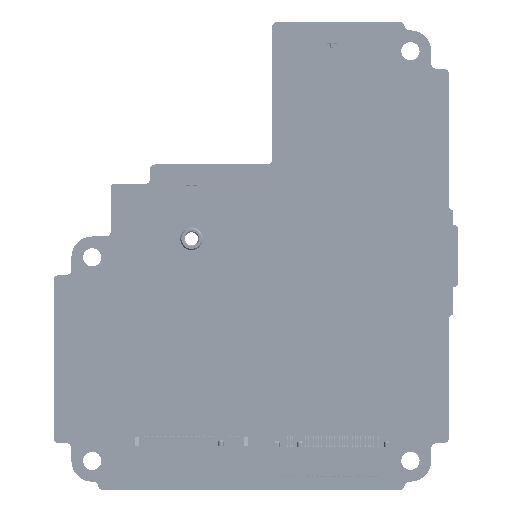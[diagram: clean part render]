
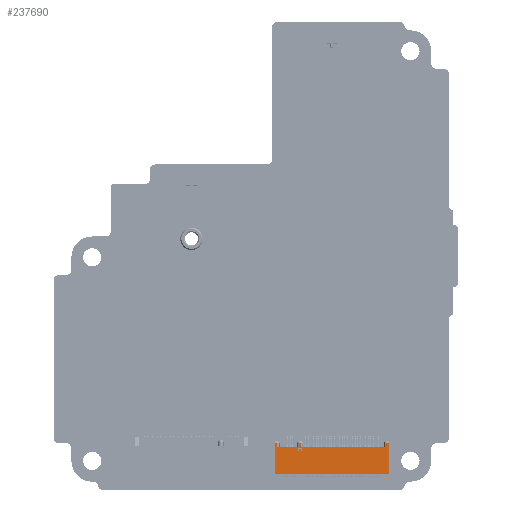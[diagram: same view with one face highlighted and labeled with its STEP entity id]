
A CAD part, front view. The second image highlights one B-rep face of the part: STEP entity #237690.
In plain terms, the highlighted planar face has unit normal (0, -1, 0) as drawn and (0, 1, 0) by its records, which use the part's own axes.
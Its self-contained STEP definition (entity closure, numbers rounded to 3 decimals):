
#86456=DIRECTION('',(0.,0.,1.));
#86457=VECTOR('',#86456,6.02);
#86458=CARTESIAN_POINT('',(0.,6.1,-6.02));
#86459=LINE('',#86458,#86457);
#86504=DIRECTION('',(1.,0.,0.));
#86505=VECTOR('',#86504,21.9);
#86506=CARTESIAN_POINT('',(0.,6.1,0.));
#86507=LINE('',#86506,#86505);
#86532=DIRECTION('',(0.,0.,1.));
#86533=VECTOR('',#86532,6.02);
#86534=CARTESIAN_POINT('',(21.9,6.1,-6.02));
#86535=LINE('',#86534,#86533);
#86536=DIRECTION('',(1.,0.,0.));
#86537=VECTOR('',#86536,4.19);
#86538=CARTESIAN_POINT('',(0.475,6.1,-5.22));
#86539=LINE('',#86538,#86537);
#86540=DIRECTION('',(1.,0.,0.));
#86541=VECTOR('',#86540,16.44);
#86542=CARTESIAN_POINT('',(4.985,6.1,-5.22));
#86543=LINE('',#86542,#86541);
#86544=DIRECTION('',(0.,0.,-1.));
#86545=VECTOR('',#86544,0.512);
#86546=CARTESIAN_POINT('',(4.563,6.1,
-4.643));
#86547=LINE('',#86546,#86545);
#86548=DIRECTION('',(-1.,0.,0.));
#86549=VECTOR('',#86548,0.081);
#86550=CARTESIAN_POINT('',(4.563,6.1,
-5.155));
#86551=LINE('',#86550,#86549);
#86552=DIRECTION('',(0.,0.,1.));
#86553=VECTOR('',#86552,0.65);
#86554=CARTESIAN_POINT('',(4.481,6.1,
-5.155));
#86555=LINE('',#86554,#86553);
#86556=DIRECTION('',(1.,0.,0.));
#86557=VECTOR('',#86556,0.122);
#86558=CARTESIAN_POINT('',(4.481,6.1,
-4.505));
#86559=LINE('',#86558,#86557);
#86560=DIRECTION('',(0.33,0.,-0.944));
#86561=VECTOR('',#86560,0.615);
#86562=CARTESIAN_POINT('',(4.603,6.1,
-4.505));
#86563=LINE('',#86562,#86561);
#86564=DIRECTION('',(0.33,0.,0.944));
#86565=VECTOR('',#86564,0.615);
#86566=CARTESIAN_POINT('',(4.806,6.1,
-5.086));
#86567=LINE('',#86566,#86565);
#86568=DIRECTION('',(1.,0.,0.));
#86569=VECTOR('',#86568,0.122);
#86570=CARTESIAN_POINT('',(5.009,6.1,
-4.505));
#86571=LINE('',#86570,#86569);
#86572=DIRECTION('',(0.,0.,-1.));
#86573=VECTOR('',#86572,0.65);
#86574=CARTESIAN_POINT('',(5.131,6.1,
-4.505));
#86575=LINE('',#86574,#86573);
#86576=DIRECTION('',(-1.,0.,0.));
#86577=VECTOR('',#86576,0.081);
#86578=CARTESIAN_POINT('',(5.131,6.1,
-5.155));
#86579=LINE('',#86578,#86577);
#86580=DIRECTION('',(0.,0.,1.));
#86581=VECTOR('',#86580,0.512);
#86582=CARTESIAN_POINT('',(5.05,6.1,
-5.155));
#86583=LINE('',#86582,#86581);
#86584=DIRECTION('',(-0.347,0.,-0.938));
#86585=VECTOR('',#86584,0.546);
#86586=CARTESIAN_POINT('',(5.05,6.1,
-4.643));
#86587=LINE('',#86586,#86585);
#86588=DIRECTION('',(-1.,0.,0.));
#86589=VECTOR('',#86588,0.108);
#86590=CARTESIAN_POINT('',(4.861,6.1,
-5.155));
#86591=LINE('',#86590,#86589);
#86592=DIRECTION('',(-0.347,0.,0.938));
#86593=VECTOR('',#86592,0.546);
#86594=CARTESIAN_POINT('',(4.752,6.1,
-5.155));
#86595=LINE('',#86594,#86593);
#86769=DIRECTION('',(0.,0.,1.));
#86770=VECTOR('',#86769,0.8);
#86771=CARTESIAN_POINT('',(21.425,6.1,-6.02));
#86772=LINE('',#86771,#86770);
#87719=DIRECTION('',(0.,0.,-1.));
#87720=VECTOR('',#87719,0.8);
#87721=CARTESIAN_POINT('',(4.985,6.1,-5.22));
#87722=LINE('',#87721,#87720);
#87742=DIRECTION('',(-1.,0.,0.));
#87743=VECTOR('',#87742,0.32);
#87744=CARTESIAN_POINT('',(4.985,6.1,-6.02));
#87745=LINE('',#87744,#87743);
#87769=DIRECTION('',(0.,0.,1.));
#87770=VECTOR('',#87769,0.8);
#87771=CARTESIAN_POINT('',(4.665,6.1,-6.02));
#87772=LINE('',#87771,#87770);
#139540=DIRECTION('',(0.,0.,-1.));
#139541=VECTOR('',#139540,0.8);
#139542=CARTESIAN_POINT('',(0.475,6.1,-5.22));
#139543=LINE('',#139542,#139541);
#142712=DIRECTION('',(-1.,0.,0.));
#142713=VECTOR('',#142712,0.475);
#142714=CARTESIAN_POINT('',(0.475,6.1,-6.02));
#142715=LINE('',#142714,#142713);
#146547=DIRECTION('',(-1.,0.,0.));
#146548=VECTOR('',#146547,0.475);
#146549=CARTESIAN_POINT('',(21.9,6.1,-6.02));
#146550=LINE('',#146549,#146548);
#185156=CARTESIAN_POINT('',(0.,6.1,-6.02));
#185157=VERTEX_POINT('',#185156);
#185158=CARTESIAN_POINT('',(0.,6.1,0.));
#185159=VERTEX_POINT('',#185158);
#185178=CARTESIAN_POINT('',(21.9,6.1,0.));
#185179=VERTEX_POINT('',#185178);
#185188=CARTESIAN_POINT('',(21.9,6.1,-6.02));
#185189=VERTEX_POINT('',#185188);
#185190=CARTESIAN_POINT('',(0.475,6.1,-6.02));
#185191=VERTEX_POINT('',#185190);
#185192=CARTESIAN_POINT('',(0.475,6.1,-5.22));
#185193=VERTEX_POINT('',#185192);
#185194=CARTESIAN_POINT('',(4.665,6.1,-5.22));
#185195=VERTEX_POINT('',#185194);
#185196=CARTESIAN_POINT('',(4.665,6.1,-6.02));
#185197=VERTEX_POINT('',#185196);
#185198=CARTESIAN_POINT('',(4.985,6.1,-6.02));
#185199=VERTEX_POINT('',#185198);
#185200=CARTESIAN_POINT('',(4.985,6.1,-5.22));
#185201=VERTEX_POINT('',#185200);
#185202=CARTESIAN_POINT('',(21.425,6.1,-5.22));
#185203=VERTEX_POINT('',#185202);
#185204=CARTESIAN_POINT('',(21.425,6.1,-6.02));
#185205=VERTEX_POINT('',#185204);
#185206=CARTESIAN_POINT('',(4.563,6.1,
-4.643));
#185207=CARTESIAN_POINT('',(4.563,6.1,
-5.155));
#185208=VERTEX_POINT('',#185206);
#185209=VERTEX_POINT('',#185207);
#185210=CARTESIAN_POINT('',(4.481,6.1,
-5.155));
#185211=VERTEX_POINT('',#185210);
#185212=CARTESIAN_POINT('',(4.481,6.1,
-4.505));
#185213=VERTEX_POINT('',#185212);
#185214=CARTESIAN_POINT('',(4.603,6.1,
-4.505));
#185215=VERTEX_POINT('',#185214);
#185216=CARTESIAN_POINT('',(4.806,6.1,
-5.086));
#185217=VERTEX_POINT('',#185216);
#185218=CARTESIAN_POINT('',(5.009,6.1,
-4.505));
#185219=VERTEX_POINT('',#185218);
#185220=CARTESIAN_POINT('',(5.131,6.1,
-4.505));
#185221=VERTEX_POINT('',#185220);
#185222=CARTESIAN_POINT('',(5.131,6.1,
-5.155));
#185223=VERTEX_POINT('',#185222);
#185224=CARTESIAN_POINT('',(5.05,6.1,
-5.155));
#185225=VERTEX_POINT('',#185224);
#185226=CARTESIAN_POINT('',(5.05,6.1,
-4.643));
#185227=VERTEX_POINT('',#185226);
#185228=CARTESIAN_POINT('',(4.861,6.1,
-5.155));
#185229=VERTEX_POINT('',#185228);
#185230=CARTESIAN_POINT('',(4.752,6.1,
-5.155));
#185231=VERTEX_POINT('',#185230);
#237633=CARTESIAN_POINT('',(10.95,6.1,-3.01));
#237634=DIRECTION('',(0.,1.,0.));
#237635=DIRECTION('',(-1.,0.,0.));
#237636=AXIS2_PLACEMENT_3D('',#237633,#237634,#237635);
#237637=PLANE('',#237636);
#237639=ORIENTED_EDGE('',*,*,#237638,.T.);
#237640=ORIENTED_EDGE('',*,*,#237613,.F.);
#237641=ORIENTED_EDGE('',*,*,#237553,.F.);
#237643=ORIENTED_EDGE('',*,*,#237642,.F.);
#237645=ORIENTED_EDGE('',*,*,#237644,.F.);
#237647=ORIENTED_EDGE('',*,*,#237646,.T.);
#237649=ORIENTED_EDGE('',*,*,#237648,.F.);
#237651=ORIENTED_EDGE('',*,*,#237650,.F.);
#237653=ORIENTED_EDGE('',*,*,#237652,.F.);
#237655=ORIENTED_EDGE('',*,*,#237654,.T.);
#237657=ORIENTED_EDGE('',*,*,#237656,.F.);
#237659=ORIENTED_EDGE('',*,*,#237658,.F.);
#237660=EDGE_LOOP('',(#237639,#237640,#237641,#237643,#237645,#237647,#237649,
#237651,#237653,#237655,#237657,#237659));
#237661=FACE_OUTER_BOUND('',#237660,.F.);
#237663=ORIENTED_EDGE('',*,*,#237662,.T.);
#237665=ORIENTED_EDGE('',*,*,#237664,.T.);
#237667=ORIENTED_EDGE('',*,*,#237666,.T.);
#237669=ORIENTED_EDGE('',*,*,#237668,.T.);
#237671=ORIENTED_EDGE('',*,*,#237670,.T.);
#237673=ORIENTED_EDGE('',*,*,#237672,.T.);
#237675=ORIENTED_EDGE('',*,*,#237674,.T.);
#237677=ORIENTED_EDGE('',*,*,#237676,.T.);
#237679=ORIENTED_EDGE('',*,*,#237678,.T.);
#237681=ORIENTED_EDGE('',*,*,#237680,.T.);
#237683=ORIENTED_EDGE('',*,*,#237682,.T.);
#237685=ORIENTED_EDGE('',*,*,#237684,.T.);
#237687=ORIENTED_EDGE('',*,*,#237686,.T.);
#237688=EDGE_LOOP('',(#237663,#237665,#237667,#237669,#237671,#237673,#237675,
#237677,#237679,#237681,#237683,#237685,#237687));
#237689=FACE_BOUND('',#237688,.F.);
#237553=EDGE_CURVE('',#185157,#185159,#86459,.T.);
#237613=EDGE_CURVE('',#185159,#185179,#86507,.T.);
#237638=EDGE_CURVE('',#185189,#185179,#86535,.T.);
#237642=EDGE_CURVE('',#185191,#185157,#142715,.T.);
#237644=EDGE_CURVE('',#185193,#185191,#139543,.T.);
#237646=EDGE_CURVE('',#185193,#185195,#86539,.T.);
#237648=EDGE_CURVE('',#185197,#185195,#87772,.T.);
#237650=EDGE_CURVE('',#185199,#185197,#87745,.T.);
#237652=EDGE_CURVE('',#185201,#185199,#87722,.T.);
#237654=EDGE_CURVE('',#185201,#185203,#86543,.T.);
#237656=EDGE_CURVE('',#185205,#185203,#86772,.T.);
#237658=EDGE_CURVE('',#185189,#185205,#146550,.T.);
#237662=EDGE_CURVE('',#185208,#185209,#86547,.T.);
#237664=EDGE_CURVE('',#185209,#185211,#86551,.T.);
#237666=EDGE_CURVE('',#185211,#185213,#86555,.T.);
#237668=EDGE_CURVE('',#185213,#185215,#86559,.T.);
#237670=EDGE_CURVE('',#185215,#185217,#86563,.T.);
#237672=EDGE_CURVE('',#185217,#185219,#86567,.T.);
#237674=EDGE_CURVE('',#185219,#185221,#86571,.T.);
#237676=EDGE_CURVE('',#185221,#185223,#86575,.T.);
#237678=EDGE_CURVE('',#185223,#185225,#86579,.T.);
#237680=EDGE_CURVE('',#185225,#185227,#86583,.T.);
#237682=EDGE_CURVE('',#185227,#185229,#86587,.T.);
#237684=EDGE_CURVE('',#185229,#185231,#86591,.T.);
#237686=EDGE_CURVE('',#185231,#185208,#86595,.T.);
#237690=ADVANCED_FACE('',(#237661,#237689),#237637,.T.);
